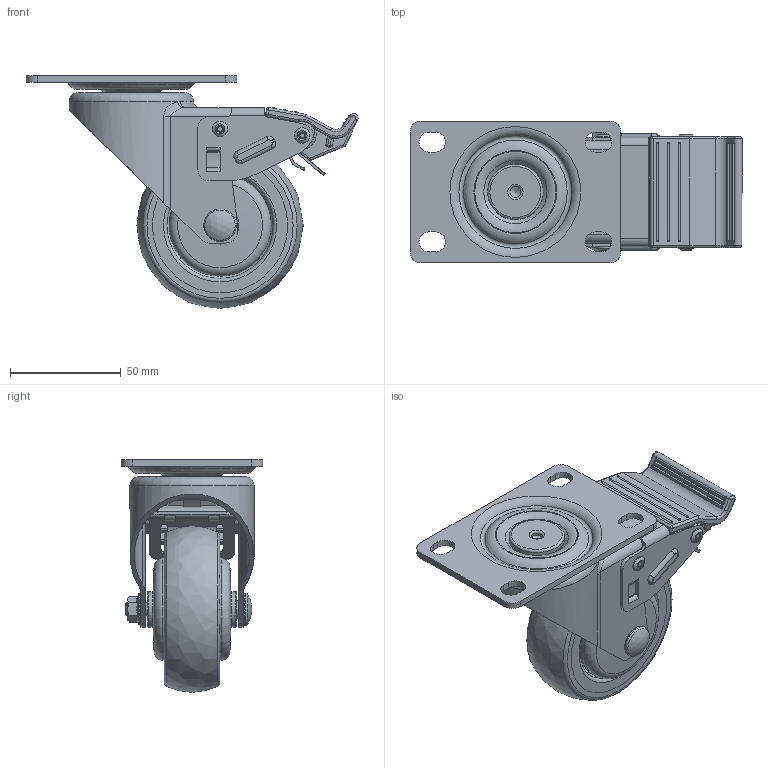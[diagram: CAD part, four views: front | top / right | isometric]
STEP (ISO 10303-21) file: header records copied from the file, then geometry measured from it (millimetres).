
FILE_DESCRIPTION((''),'2;1');
FILE_NAME('E:\GL-홈피용3D\3d step\가져온 구성요소\GL-75-BSF\GL-75-BSF.stp','2011-11-21T09:27:30',('Administrator'),(''),'Autodesk Inventor 2011','Autodesk Inventor 2011','');
FILE_SCHEMA(('AUTOMOTIVE_DESIGN { 1 0 10303 214 1 1 1 1 }'));
Length unit declared in the file: millimetre
Products named in the file (1): GL-75-BSF
Bounding box: 149.71 x 64 x 105 mm (x, y, z)
Volume: 161701.5 mm3; surface area: 104671.6 mm2
Topology: 8 solids, 13 shells, 806 faces, 2100 edges, 1341 vertices
Faces by surface type: cylinder 312, plane 276, torus 119, bspline 43, cone 28, sphere 28
Full cylindrical faces by diameter (mm): 5 x3, 5.2 x5, 6 x2, 6.2 x1, 7 x5, 8 x1, 8.2 x2, 11 x1, 11.1 x1, 11.2 x1, 14 x1, 14.6 x1, 15 x3, 16 x3, 21.667 x2, 21.867 x2, 24.645 x1, 25 x1, 28.133 x2, 28.333 x2, 32 x2, 34 x2, 38 x2, 41 x1, 43 x2, 46 x2, 48 x2, 61 x1, 61.001 x2
Entity records: 26007 total; most frequent: CARTESIAN_POINT 6912, DIRECTION 4158, ORIENTED_EDGE 3696, EDGE_CURVE 1848, AXIS2_PLACEMENT_3D 1665, VERTEX_POINT 1263, EDGE_LOOP 1080, CIRCLE 835
